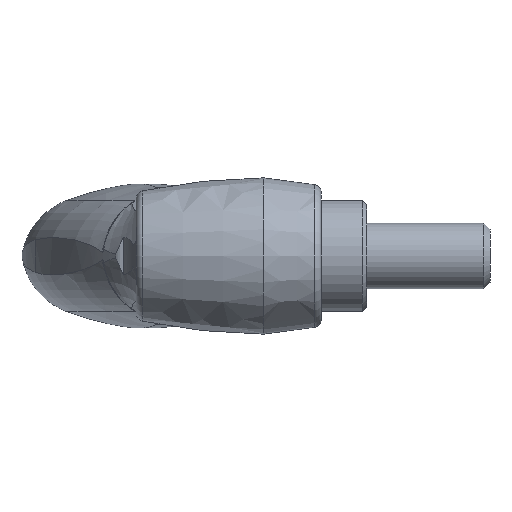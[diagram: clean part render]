
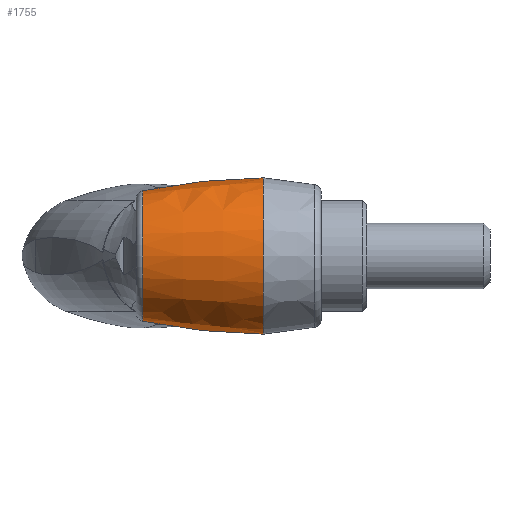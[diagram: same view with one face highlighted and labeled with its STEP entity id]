
A CAD part, left-side view. The second image highlights one B-rep face of the part: STEP entity #1755.
In plain terms, the highlighted free-form (B-spline) face has degree [3, 3] with [4, 4] control points.
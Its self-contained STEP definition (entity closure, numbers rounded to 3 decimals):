
#15 = CARTESIAN_POINT ( 'NONE',  ( -18.907, 17.489, -9.453 ) ) ;
#25 = CARTESIAN_POINT ( 'NONE',  ( -18.907, 17.489, 9.453 ) ) ;
#43 = CARTESIAN_POINT ( 'NONE',  ( 0., 17.489, 9.453 ) ) ;
#203 = CARTESIAN_POINT ( 'NONE',  ( 0., 27.204, 7.922 ) ) ;
#218 = CIRCLE ( 'NONE', #1069, 7.922 ) ;
#244 = CARTESIAN_POINT ( 'NONE',  ( 0., 12.566, 9.497 ) ) ;
#504 = CARTESIAN_POINT ( 'NONE',  ( 0., 12.566, 0. ) ) ;
#597 = VERTEX_POINT ( 'NONE', #2416 ) ;
#631 = CARTESIAN_POINT ( 'NONE',  ( 0., 22.384, -8.927 ) ) ;
#658 = CARTESIAN_POINT ( 'NONE',  ( -17.853, 22.384, 8.927 ) ) ;
#675 = VERTEX_POINT ( 'NONE', #807 ) ;
#720 = CARTESIAN_POINT ( 'NONE',  ( 0., 12.566, 9.497 ) ) ;
#734 = CARTESIAN_POINT ( 'NONE',  ( 0., 27.204, 0. ) ) ;
#807 = CARTESIAN_POINT ( 'NONE',  ( 0., 27.204, -7.922 ) ) ;
#856 = CARTESIAN_POINT ( 'NONE',  ( 0., 22.384, 8.927 ) ) ;
#859 = CARTESIAN_POINT ( 'NONE',  ( 0., 12.566, -9.497 ) ) ;
#866 = CARTESIAN_POINT ( 'NONE',  ( 0., 17.489, -9.453 ) ) ;
#922 = CARTESIAN_POINT ( 'NONE',  ( 0., 17.489, 9.453 ) ) ;
#1016 = VERTEX_POINT ( 'NONE', #859 ) ;
#1027 = FACE_OUTER_BOUND ( 'NONE', #2199, .T. ) ;
#1069 = AXIS2_PLACEMENT_3D ( 'NONE', #734, #2390, #1997 ) ;
#1071 = CARTESIAN_POINT ( 'NONE',  ( 0., 17.489, -9.453 ) ) ;
#1079 = EDGE_CURVE ( 'NONE', #675, #1016, #2595, .T. ) ;
#1083 = ORIENTED_EDGE ( 'NONE', *, *, #2511, .T. ) ;
#1234 = CARTESIAN_POINT ( 'NONE',  ( 0., 27.204, -7.922 ) ) ;
#1278 = CARTESIAN_POINT ( 'NONE',  ( 0., 12.566, -9.497 ) ) ;
#1417 = CARTESIAN_POINT ( 'NONE',  ( 0., 12.566, 9.497 ) ) ;
#1449 = CARTESIAN_POINT ( 'NONE',  ( -15.844, 27.204, 7.922 ) ) ;
#1466 = CIRCLE ( 'NONE', #1844, 9.497 ) ;
#1487 = EDGE_CURVE ( 'NONE', #675, #597, #218, .T. ) ;
#1488 = CARTESIAN_POINT ( 'NONE',  ( 0., 12.566, -9.497 ) ) ;
#1508 =( BOUNDED_CURVE ( )  B_SPLINE_CURVE ( 3, ( #1998, #2213, #922, #720 ),
 .UNSPECIFIED., .F., .T. ) 
 B_SPLINE_CURVE_WITH_KNOTS ( ( 4, 4 ),
 ( 0., 15.277 ),
 .UNSPECIFIED. ) 
 CURVE ( )  GEOMETRIC_REPRESENTATION_ITEM ( )  RATIONAL_B_SPLINE_CURVE ( ( 1., 0.997, 0.997, 1. ) ) 
 REPRESENTATION_ITEM ( '' )  );
#1613 = ORIENTED_EDGE ( 'NONE', *, *, #2130, .F. ) ;
#1659 = CARTESIAN_POINT ( 'NONE',  ( -17.853, 22.384, -8.927 ) ) ;
#1755 = ADVANCED_FACE ( 'NONE', ( #1027 ), #2098, .T. ) ;
#1759 = ORIENTED_EDGE ( 'NONE', *, *, #1079, .T. ) ;
#1844 = AXIS2_PLACEMENT_3D ( 'NONE', #504, #1969, #2580 ) ;
#1969 = DIRECTION ( 'NONE',  ( 0., 1., 0. ) ) ;
#1997 = DIRECTION ( 'NONE',  ( 0., 0., 1. ) ) ;
#1998 = CARTESIAN_POINT ( 'NONE',  ( 0., 27.204, 7.922 ) ) ;
#2076 = CARTESIAN_POINT ( 'NONE',  ( 0., 22.384, -8.927 ) ) ;
#2098 =( BOUNDED_SURFACE ( )  B_SPLINE_SURFACE ( 3, 3, ( 
 ( #1234, #2707, #1449, #203 ),
 ( #2076, #1659, #658, #856 ),
 ( #866, #15, #25, #43 ),
 ( #1488, #2313, #2333, #244 ) ),
 .UNSPECIFIED., .F., .F., .T. ) 
 B_SPLINE_SURFACE_WITH_KNOTS ( ( 4, 4 ),
 ( 4, 4 ),
 ( 0., 15.277 ),
 ( 61.841, 118.561 ),
 .UNSPECIFIED. ) 
 GEOMETRIC_REPRESENTATION_ITEM ( )  RATIONAL_B_SPLINE_SURFACE ( (
 ( 1., 0.333, 0.333, 1.),
 ( 0.997, 0.332, 0.332, 0.997),
 ( 0.997, 0.332, 0.332, 0.997),
 ( 1., 0.333, 0.333, 1.) ) ) 
 REPRESENTATION_ITEM ( '' )  SURFACE ( )  );
#2104 = CARTESIAN_POINT ( 'NONE',  ( 0., 27.204, -7.922 ) ) ;
#2130 = EDGE_CURVE ( 'NONE', #597, #2203, #1508, .T. ) ;
#2164 = ORIENTED_EDGE ( 'NONE', *, *, #1487, .F. ) ;
#2199 = EDGE_LOOP ( 'NONE', ( #1083, #1613, #2164, #1759 ) ) ;
#2203 = VERTEX_POINT ( 'NONE', #1417 ) ;
#2213 = CARTESIAN_POINT ( 'NONE',  ( 0., 22.384, 8.927 ) ) ;
#2313 = CARTESIAN_POINT ( 'NONE',  ( -18.994, 12.566, -9.497 ) ) ;
#2333 = CARTESIAN_POINT ( 'NONE',  ( -18.994, 12.566, 9.497 ) ) ;
#2390 = DIRECTION ( 'NONE',  ( 0., 1., 0. ) ) ;
#2416 = CARTESIAN_POINT ( 'NONE',  ( 0., 27.204, 7.922 ) ) ;
#2511 = EDGE_CURVE ( 'NONE', #1016, #2203, #1466, .T. ) ;
#2580 = DIRECTION ( 'NONE',  ( 0., 0., 1. ) ) ;
#2595 =( BOUNDED_CURVE ( )  B_SPLINE_CURVE ( 3, ( #2104, #631, #1071, #1278 ),
 .UNSPECIFIED., .F., .F. ) 
 B_SPLINE_CURVE_WITH_KNOTS ( ( 4, 4 ),
 ( 0., 15.277 ),
 .UNSPECIFIED. ) 
 CURVE ( )  GEOMETRIC_REPRESENTATION_ITEM ( )  RATIONAL_B_SPLINE_CURVE ( ( 1., 0.997, 0.997, 1. ) ) 
 REPRESENTATION_ITEM ( '' )  );
#2707 = CARTESIAN_POINT ( 'NONE',  ( -15.844, 27.204, -7.922 ) ) ;
